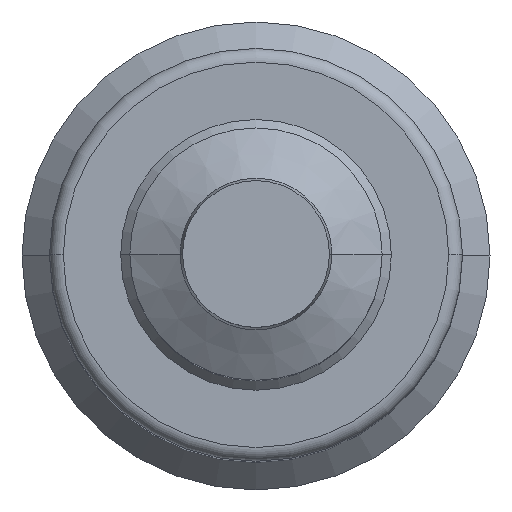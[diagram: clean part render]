
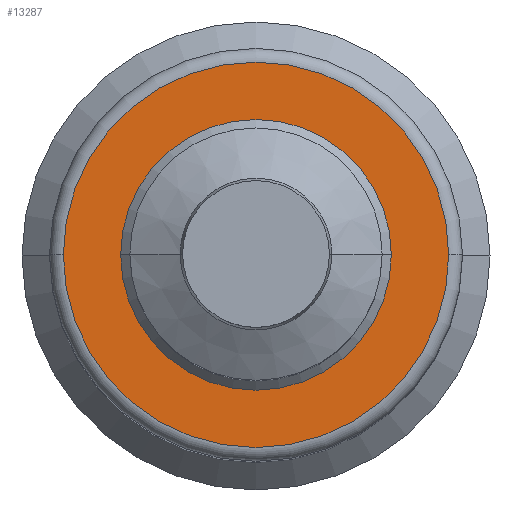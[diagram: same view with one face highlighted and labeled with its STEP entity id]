
A CAD part, top view. The second image highlights one B-rep face of the part: STEP entity #13287.
In plain terms, the highlighted planar face has unit normal (0, 0, 1).
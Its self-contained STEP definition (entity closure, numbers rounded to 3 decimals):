
#642 = VERTEX_POINT ( 'NONE', #11959 ) ;
#809 = EDGE_LOOP ( 'NONE', ( #8210, #1329 ) ) ;
#1311 = DIRECTION ( 'NONE',  ( -1., 0., 0. ) ) ;
#1329 = ORIENTED_EDGE ( 'NONE', *, *, #18275, .F. ) ;
#2588 = DIRECTION ( 'NONE',  ( 0., 0., -1. ) ) ;
#2785 = EDGE_CURVE ( 'NONE', #13282, #9376, #14079, .T. ) ;
#3878 = CARTESIAN_POINT ( 'NONE',  ( -29.5, 0., 195. ) ) ;
#4099 = AXIS2_PLACEMENT_3D ( 'NONE', #11881, #2588, #13440 ) ;
#4109 = EDGE_CURVE ( 'NONE', #642, #11935, #17269, .T. ) ;
#4116 = CARTESIAN_POINT ( 'NONE',  ( 0., 0., 195. ) ) ;
#5033 = AXIS2_PLACEMENT_3D ( 'NONE', #8784, #9802, #1311 ) ;
#5045 = CIRCLE ( 'NONE', #5506, 29.5 ) ;
#5303 = CIRCLE ( 'NONE', #4099, 42. ) ;
#5506 = AXIS2_PLACEMENT_3D ( 'NONE', #4116, #14934, #5664 ) ;
#5664 = DIRECTION ( 'NONE',  ( -1., 0., 0. ) ) ;
#5717 = EDGE_LOOP ( 'NONE', ( #9403, #17315 ) ) ;
#7004 = CARTESIAN_POINT ( 'NONE',  ( 42., 0., 195. ) ) ;
#7134 = DIRECTION ( 'NONE',  ( 0., 0., 1. ) ) ;
#8210 = ORIENTED_EDGE ( 'NONE', *, *, #4109, .F. ) ;
#8784 = CARTESIAN_POINT ( 'NONE',  ( 0., 0., 195. ) ) ;
#9376 = VERTEX_POINT ( 'NONE', #3878 ) ;
#9403 = ORIENTED_EDGE ( 'NONE', *, *, #13845, .T. ) ;
#9802 = DIRECTION ( 'NONE',  ( 0., 0., -1. ) ) ;
#11881 = CARTESIAN_POINT ( 'NONE',  ( 0., 0., 195. ) ) ;
#11935 = VERTEX_POINT ( 'NONE', #7004 ) ;
#11955 = AXIS2_PLACEMENT_3D ( 'NONE', #16099, #18691, #15967 ) ;
#11959 = CARTESIAN_POINT ( 'NONE',  ( -42., 0., 195. ) ) ;
#13282 = VERTEX_POINT ( 'NONE', #16307 ) ;
#13287 = ADVANCED_FACE ( 'NONE', ( #14307, #13828 ), #19365, .T. ) ;
#13440 = DIRECTION ( 'NONE',  ( -1., 0., 0. ) ) ;
#13828 = FACE_OUTER_BOUND ( 'NONE', #809, .T. ) ;
#13845 = EDGE_CURVE ( 'NONE', #9376, #13282, #5045, .T. ) ;
#14079 = CIRCLE ( 'NONE', #11955, 29.5 ) ;
#14307 = FACE_BOUND ( 'NONE', #5717, .T. ) ;
#14934 = DIRECTION ( 'NONE',  ( 0., 0., -1. ) ) ;
#15967 = DIRECTION ( 'NONE',  ( -1., 0., 0. ) ) ;
#16099 = CARTESIAN_POINT ( 'NONE',  ( 0., 0., 195. ) ) ;
#16307 = CARTESIAN_POINT ( 'NONE',  ( 29.5, 0., 195. ) ) ;
#16384 = CARTESIAN_POINT ( 'NONE',  ( -29.5, 0., 195. ) ) ;
#17269 = CIRCLE ( 'NONE', #5033, 42. ) ;
#17315 = ORIENTED_EDGE ( 'NONE', *, *, #2785, .T. ) ;
#17896 = DIRECTION ( 'NONE',  ( 1., 0., 0. ) ) ;
#18275 = EDGE_CURVE ( 'NONE', #11935, #642, #5303, .T. ) ;
#18691 = DIRECTION ( 'NONE',  ( 0., 0., -1. ) ) ;
#19365 = PLANE ( 'NONE',  #19802 ) ;
#19802 = AXIS2_PLACEMENT_3D ( 'NONE', #16384, #7134, #17896 ) ;
